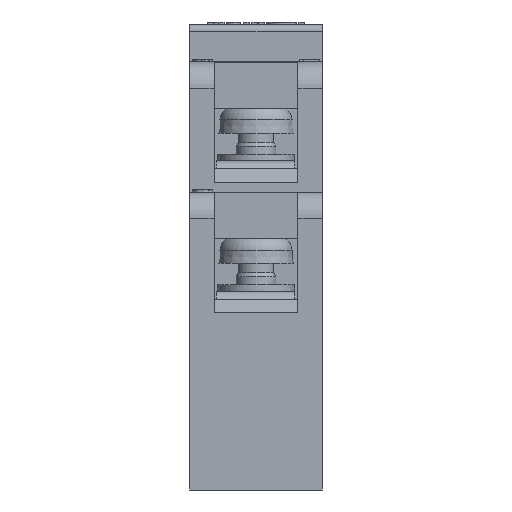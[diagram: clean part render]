
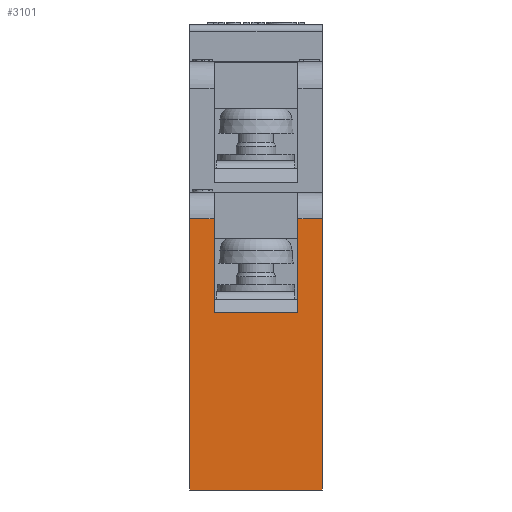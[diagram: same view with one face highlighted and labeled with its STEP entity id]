
A CAD part, left-side view. The second image highlights one B-rep face of the part: STEP entity #3101.
In plain terms, the highlighted planar face has unit normal (-1, 0, 0).
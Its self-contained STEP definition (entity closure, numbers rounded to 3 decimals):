
#3101=ADVANCED_FACE('',(#4439),#3928,.T.);
#3928=PLANE('',#17113);
#4439=FACE_OUTER_BOUND('',#5212,.T.);
#5212=EDGE_LOOP('',(#6590,#6591,#6592,#6593,#6594,#6595,#6596,#6597));
#6590=ORIENTED_EDGE('',*,*,#12255,.F.);
#6591=ORIENTED_EDGE('',*,*,#12314,.T.);
#6592=ORIENTED_EDGE('',*,*,#12309,.F.);
#6593=ORIENTED_EDGE('',*,*,#12315,.T.);
#6594=ORIENTED_EDGE('',*,*,#12316,.F.);
#6595=ORIENTED_EDGE('',*,*,#12317,.T.);
#6596=ORIENTED_EDGE('',*,*,#12312,.F.);
#6597=ORIENTED_EDGE('',*,*,#12318,.T.);
#10764=VERTEX_POINT('',#23107);
#10765=VERTEX_POINT('',#23109);
#10808=VERTEX_POINT('',#23233);
#10809=VERTEX_POINT('',#23235);
#10810=VERTEX_POINT('',#23238);
#10811=VERTEX_POINT('',#23240);
#10812=VERTEX_POINT('',#23245);
#10813=VERTEX_POINT('',#23247);
#12255=EDGE_CURVE('',#10764,#10765,#14339,.T.);
#12309=EDGE_CURVE('',#10808,#10809,#14372,.T.);
#12312=EDGE_CURVE('',#10810,#10811,#14373,.T.);
#12314=EDGE_CURVE('',#10764,#10809,#14374,.T.);
#12315=EDGE_CURVE('',#10808,#10812,#14375,.T.);
#12316=EDGE_CURVE('',#10813,#10812,#14376,.T.);
#12317=EDGE_CURVE('',#10813,#10811,#14377,.T.);
#12318=EDGE_CURVE('',#10810,#10765,#14378,.T.);
#14339=LINE('',#23108,#15796);
#14372=LINE('',#23234,#15829);
#14373=LINE('',#23239,#15830);
#14374=LINE('',#23243,#15831);
#14375=LINE('',#23244,#15832);
#14376=LINE('',#23246,#15833);
#14377=LINE('',#23248,#15834);
#14378=LINE('',#23249,#15835);
#15796=VECTOR('',#18706,1.);
#15829=VECTOR('',#18781,1.);
#15830=VECTOR('',#18786,1.);
#15831=VECTOR('',#18791,1.);
#15832=VECTOR('',#18792,1.);
#15833=VECTOR('',#18793,1.);
#15834=VECTOR('',#18794,1.);
#15835=VECTOR('',#18795,1.);
#17113=AXIS2_PLACEMENT_3D('',#23250,#18796,#18797);
#18706=DIRECTION('',(0.,-1.,0.));
#18781=DIRECTION('',(0.,-1.,0.));
#18786=DIRECTION('',(0.,-1.,0.));
#18791=DIRECTION('',(0.,0.,1.));
#18792=DIRECTION('',(0.,0.,-1.));
#18793=DIRECTION('',(0.,1.,0.));
#18794=DIRECTION('',(0.,0.,1.));
#18795=DIRECTION('',(0.,0.,-1.));
#18796=DIRECTION('',(-1.,0.,0.));
#18797=DIRECTION('',(0.,1.,0.));
#23107=CARTESIAN_POINT('',(185.06,-47.75,1.75));
#23108=CARTESIAN_POINT('',(185.06,-47.9,1.75));
#23109=CARTESIAN_POINT('',(185.06,-54.05,1.75));
#23233=CARTESIAN_POINT('',(185.06,-45.9,8.8));
#23234=CARTESIAN_POINT('',(185.06,-45.9,8.8));
#23235=CARTESIAN_POINT('',(185.06,-47.75,8.8));
#23238=CARTESIAN_POINT('',(185.06,-54.05,8.8));
#23239=CARTESIAN_POINT('',(185.06,-53.9,8.8));
#23240=CARTESIAN_POINT('',(185.06,-55.9,8.8));
#23243=CARTESIAN_POINT('',(185.06,-47.75,-11.6));
#23244=CARTESIAN_POINT('',(185.06,-45.9,8.8));
#23245=CARTESIAN_POINT('',(185.06,-45.9,-11.6));
#23246=CARTESIAN_POINT('',(185.06,-55.9,-11.6));
#23247=CARTESIAN_POINT('',(185.06,-55.9,-11.6));
#23248=CARTESIAN_POINT('',(185.06,-55.9,-2.3));
#23249=CARTESIAN_POINT('',(185.06,-54.05,23.4));
#23250=CARTESIAN_POINT('',(185.06,-45.9,-11.6));
